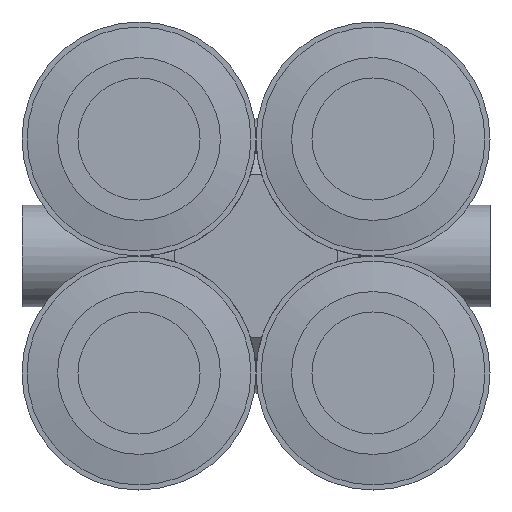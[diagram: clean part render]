
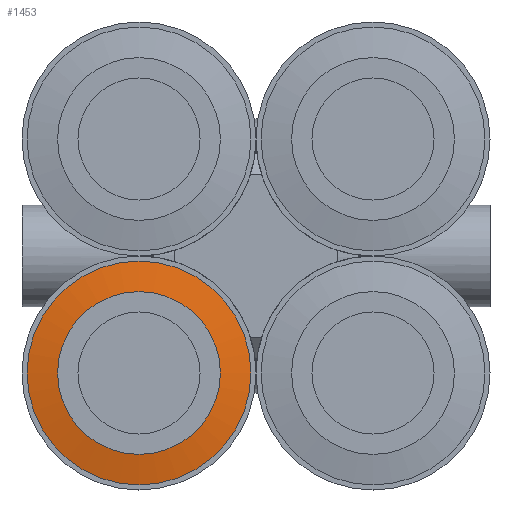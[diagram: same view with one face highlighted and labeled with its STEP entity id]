
A CAD part, front view. The second image highlights one B-rep face of the part: STEP entity #1453.
In plain terms, the highlighted conical face has half-angle 80 degrees and reference radius 4.75 mm.
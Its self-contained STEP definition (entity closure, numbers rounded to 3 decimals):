
#1419=CARTESIAN_POINT('',(-11.25,-14.736,-5.75));
#1420=VERTEX_POINT('',#1419);
#1421=CARTESIAN_POINT('',(-5.75,-14.736,-5.75));
#1422=DIRECTION('',(0.0,-1.0,0.0));
#1423=DIRECTION('',(-1.0,0.0,0.0));
#1424=AXIS2_PLACEMENT_3D('',#1421,#1422,#1423);
#1425=CIRCLE('',#1424,5.5);
#1426=EDGE_CURVE('',#1420,#1420,#1425,.T.);
#1434=CARTESIAN_POINT('',(-5.75,-14.868,-5.75));
#1435=DIRECTION('',(0.,1.0,0.0));
#1436=DIRECTION('',(-1.0,0.0,0.0));
#1437=AXIS2_PLACEMENT_3D('',#1434,#1435,#1436);
#1438=CONICAL_SURFACE('',#1437,4.75,80.);
#1439=CARTESIAN_POINT('',(-9.75,-15.0,-5.75));
#1440=VERTEX_POINT('',#1439);
#1441=CARTESIAN_POINT('',(-5.75,-15.0,-5.75));
#1442=DIRECTION('',(0.0,-1.0,0.0));
#1443=DIRECTION('',(-1.0,0.0,0.0));
#1444=AXIS2_PLACEMENT_3D('',#1441,#1442,#1443);
#1445=CIRCLE('',#1444,4.);
#1446=EDGE_CURVE('',#1440,#1440,#1445,.T.);
#1447=ORIENTED_EDGE('',*,*,#1446,.F.);
#1448=EDGE_LOOP('',(#1447));
#1449=FACE_OUTER_BOUND('',#1448,.T.);
#1450=ORIENTED_EDGE('',*,*,#1426,.T.);
#1451=EDGE_LOOP('',(#1450));
#1452=FACE_BOUND('',#1451,.T.);
#1453=ADVANCED_FACE('',(#1449,#1452),#1438,.T.);
